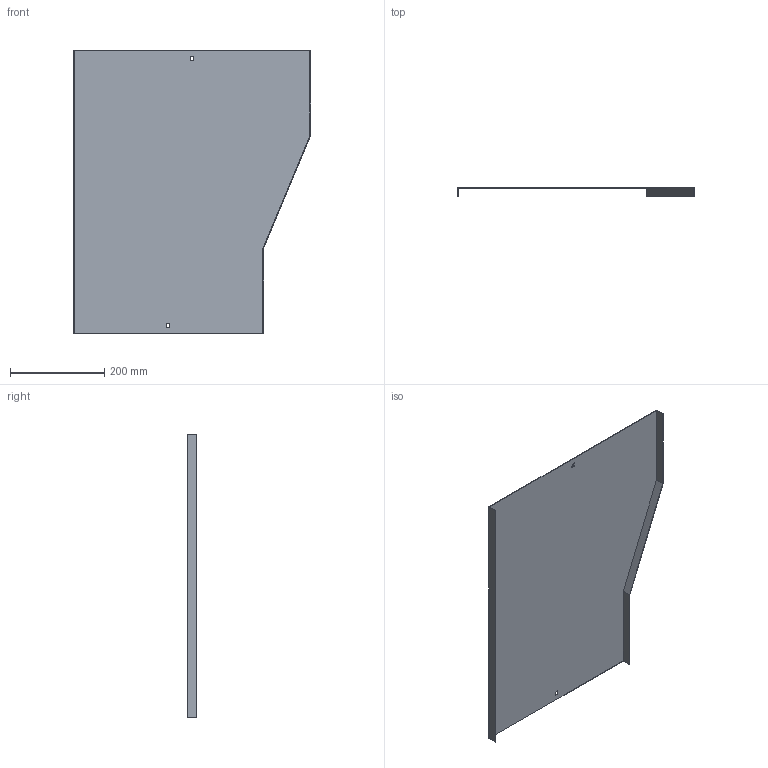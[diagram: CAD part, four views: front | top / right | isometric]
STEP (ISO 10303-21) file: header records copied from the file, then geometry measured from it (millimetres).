
FILE_DESCRIPTION (( 'STEP AP214' ), '1' );
FILE_NAME ('B2X22N4R500X.step', '2025-09-02T15:45:27', ( '' ), ( '' ), 'SwSTEP 2.0', 'SolidWorks 2023', '' );
FILE_SCHEMA (( 'AUTOMOTIVE_DESIGN' ));
Length unit declared in the file: millimetre
Products named in the file (1): B2X22N4R500X
Bounding box: 503 x 20 x 600 mm (x, y, z)
Volume: 441379.5 mm3; surface area: 591899 mm2
Topology: 1 solids, 1 shells, 22 faces, 60 edges, 40 vertices
Faces by surface type: plane 22
Entity records: 715 total; most frequent: CARTESIAN_POINT 123, ORIENTED_EDGE 120, DIRECTION 106, LINE 60, EDGE_CURVE 60, VECTOR 60, VERTEX_POINT 40, EDGE_LOOP 26
